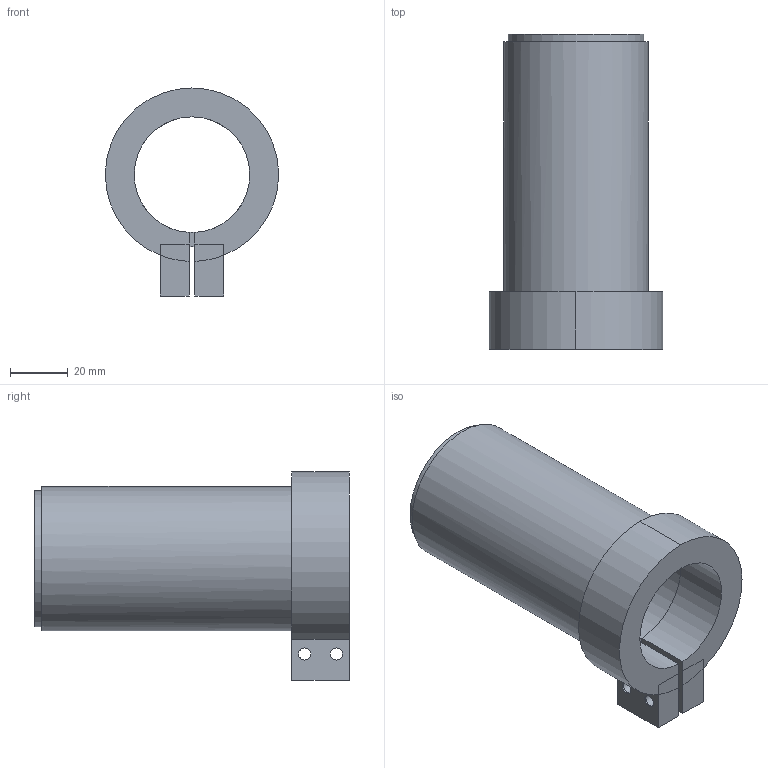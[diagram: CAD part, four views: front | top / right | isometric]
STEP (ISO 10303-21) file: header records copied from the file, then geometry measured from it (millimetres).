
FILE_DESCRIPTION(('Open CASCADE Model'),'2;1');
FILE_NAME('Open CASCADE Shape Model','2026-10-18T22:58:22',('Author'),( 'Open CASCADE'),'Open CASCADE STEP processor 7.9','Open CASCADE 7.9' ,'Unknown');
FILE_SCHEMA(('AUTOMOTIVE_DESIGN { 1 0 10303 214 1 1 1 1 }'));
Length unit declared in the file: millimetre
Products named in the file (1): Open CASCADE STEP translator 7.9 20
Bounding box: 59.99 x 109 x 72 mm (x, y, z)
Volume: 97159.5 mm3; surface area: 36865.5 mm2
Topology: 1 solids, 1 shells, 33 faces, 83 edges, 52 vertices
Faces by surface type: plane 19, cylinder 14
Full cylindrical faces by diameter (mm): 4.2 x4, 5.5 x2, 40.04 x2, 47 x1, 49.96 x1
Entity records: 2084 total; most frequent: CARTESIAN_POINT 422, DIRECTION 303, ORIENTED_EDGE 166, PCURVE 166, DEFINITIONAL_REPRESENTATION 166, LINE 145, VECTOR 145, EDGE_CURVE 83
